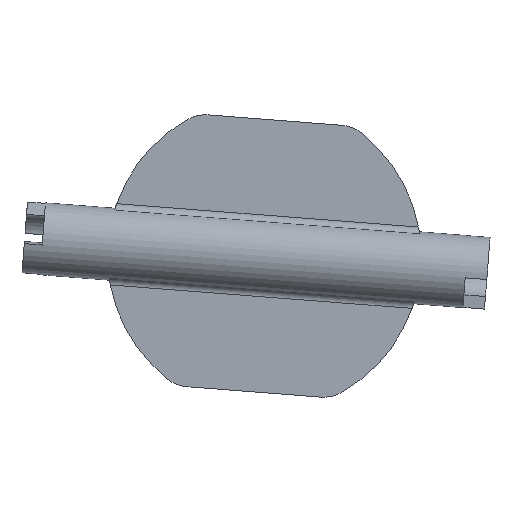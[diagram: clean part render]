
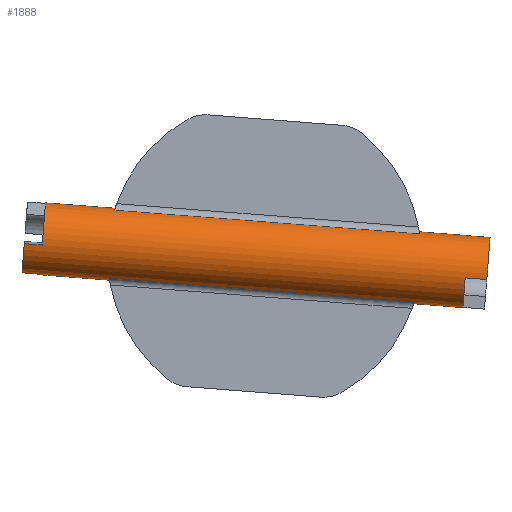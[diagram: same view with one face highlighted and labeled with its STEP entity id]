
A CAD part, front view. The second image highlights one B-rep face of the part: STEP entity #1888.
In plain terms, the highlighted cylindrical face has radius 5 mm (diameter 10 mm), a partial arc.
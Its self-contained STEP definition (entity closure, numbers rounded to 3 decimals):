
#66=CARTESIAN_POINT('',(386.935,-1.667,152.984));
#67=CARTESIAN_POINT('',(386.916,-1.487,152.922));
#68=CARTESIAN_POINT('',(386.883,-1.124,152.819));
#69=CARTESIAN_POINT('',(386.854,-0.564,152.725));
#70=CARTESIAN_POINT('',(386.847,-0.189,152.704));
#71=CARTESIAN_POINT('',(386.847,0.,152.704));
#101=CARTESIAN_POINT('',(387.62,0.,162.675));
#102=CARTESIAN_POINT('',(387.62,-0.189,162.675));
#103=CARTESIAN_POINT('',(387.624,-0.564,162.653));
#104=CARTESIAN_POINT('',(387.638,-1.124,162.556));
#105=CARTESIAN_POINT('',(387.654,-1.487,162.449));
#106=CARTESIAN_POINT('',(387.663,-1.667,162.384));
#141=CARTESIAN_POINT('',(344.68,0.,
155.974));
#142=CARTESIAN_POINT('',(344.68,-0.189,155.974));
#143=CARTESIAN_POINT('',(344.676,-0.564,155.996));
#144=CARTESIAN_POINT('',(344.662,-1.124,156.093));
#145=CARTESIAN_POINT('',(344.646,-1.487,156.2));
#146=CARTESIAN_POINT('',(344.637,-1.667,156.264));
#190=CARTESIAN_POINT('',(345.365,-1.667,165.664));
#191=CARTESIAN_POINT('',(345.384,-1.487,165.726));
#192=CARTESIAN_POINT('',(345.417,-1.124,165.83));
#193=CARTESIAN_POINT('',(345.446,-0.564,165.923));
#194=CARTESIAN_POINT('',(345.453,-0.189,165.944));
#195=CARTESIAN_POINT('',(345.453,0.,
165.944));
#197=DIRECTION('',(-0.997,0.,0.077));
#198=VECTOR('',#197,42.425);
#199=CARTESIAN_POINT('',(387.663,-1.667,162.384));
#200=LINE('',#199,#198);
#201=DIRECTION('',(0.997,0.,-0.077));
#202=VECTOR('',#201,6.846);
#203=CARTESIAN_POINT('',(387.62,0.,162.675));
#204=LINE('',#203,#202);
#205=CARTESIAN_POINT('',(394.059,0.,157.16));
#206=DIRECTION('',(0.997,0.,-0.077));
#207=DIRECTION('',(0.077,0.,0.997));
#208=AXIS2_PLACEMENT_3D('',#205,#206,#207);
#210=DIRECTION('',(-0.997,0.,0.077));
#211=VECTOR('',#210,3.);
#212=CARTESIAN_POINT('',(397.435,-0.436,161.894));
#213=LINE('',#212,#211);
#214=CARTESIAN_POINT('',(394.059,0.,157.16));
#215=DIRECTION('',(0.997,0.,-0.077));
#216=DIRECTION('',(-0.013,-0.985,-0.173));
#217=AXIS2_PLACEMENT_3D('',#214,#215,#216);
#219=DIRECTION('',(0.997,0.,-0.077));
#220=VECTOR('',#219,42.425);
#221=CARTESIAN_POINT('',(344.637,-1.667,156.264));
#222=LINE('',#221,#220);
#223=DIRECTION('',(-0.997,0.,0.077));
#224=VECTOR('',#223,2.5);
#225=CARTESIAN_POINT('',(335.027,-0.868,156.799));
#226=LINE('',#225,#224);
#227=DIRECTION('',(0.997,0.,-0.077));
#228=VECTOR('',#227,9.688);
#229=CARTESIAN_POINT('',(335.794,0.,166.693));
#230=LINE('',#229,#228);
#235=DIRECTION('',(0.997,0.,-0.077));
#236=VECTOR('',#235,6.846);
#237=CARTESIAN_POINT('',(386.847,0.,
152.704));
#238=LINE('',#237,#236);
#261=DIRECTION('',(0.997,0.,-0.077));
#262=VECTOR('',#261,9.688);
#263=CARTESIAN_POINT('',(335.021,0.,156.723));
#264=LINE('',#263,#262);
#1199=CARTESIAN_POINT('',(335.407,0.,161.708));
#1200=DIRECTION('',(0.997,0.,-0.077));
#1201=DIRECTION('',(0.077,0.,0.997));
#1202=AXIS2_PLACEMENT_3D('',#1199,#1200,#1201);
#1227=CARTESIAN_POINT('',(335.407,0.,161.708));
#1228=DIRECTION('',(0.997,0.,-0.077));
#1229=DIRECTION('',(-0.076,-0.174,-0.982));
#1230=AXIS2_PLACEMENT_3D('',#1227,#1228,#1229);
#1275=DIRECTION('',(-0.997,0.,0.077));
#1276=VECTOR('',#1275,2.5);
#1277=CARTESIAN_POINT('',(335.34,-4.924,160.842));
#1278=LINE('',#1277,#1276);
#1288=CARTESIAN_POINT('',(332.915,0.,161.901));
#1289=DIRECTION('',(-0.997,0.,0.077));
#1290=DIRECTION('',(-0.076,-0.174,-0.982));
#1291=AXIS2_PLACEMENT_3D('',#1288,#1289,#1290);
#1305=DIRECTION('',(-0.997,0.,0.077));
#1306=VECTOR('',#1305,3.);
#1307=CARTESIAN_POINT('',(396.983,-4.924,156.063));
#1308=LINE('',#1307,#1306);
#1318=CARTESIAN_POINT('',(397.05,0.,156.928));
#1319=DIRECTION('',(0.997,0.,-0.077));
#1320=DIRECTION('',(0.077,-0.087,0.993));
#1321=AXIS2_PLACEMENT_3D('',#1318,#1319,#1320);
#1369=CARTESIAN_POINT('',(335.021,0.,156.723));
#1370=CARTESIAN_POINT('',(344.68,0.,
155.974));
#1371=VERTEX_POINT('',#1369);
#1372=VERTEX_POINT('',#1370);
#1373=CARTESIAN_POINT('',(335.794,0.,166.693));
#1374=CARTESIAN_POINT('',(345.453,0.,
165.944));
#1375=VERTEX_POINT('',#1373);
#1376=VERTEX_POINT('',#1374);
#1385=CARTESIAN_POINT('',(397.435,-0.436,
161.894));
#1386=CARTESIAN_POINT('',(396.983,-4.924,156.063));
#1387=VERTEX_POINT('',#1385);
#1388=VERTEX_POINT('',#1386);
#1389=CARTESIAN_POINT('',(394.444,-0.436,
162.126));
#1390=VERTEX_POINT('',#1389);
#1391=CARTESIAN_POINT('',(393.992,-4.924,156.295));
#1392=VERTEX_POINT('',#1391);
#1401=CARTESIAN_POINT('',(332.534,-0.868,
156.992));
#1402=CARTESIAN_POINT('',(332.848,-4.924,161.036));
#1403=VERTEX_POINT('',#1401);
#1404=VERTEX_POINT('',#1402);
#1405=CARTESIAN_POINT('',(335.027,-0.868,
156.799));
#1406=VERTEX_POINT('',#1405);
#1407=CARTESIAN_POINT('',(335.34,-4.924,160.842));
#1408=VERTEX_POINT('',#1407);
#1441=CARTESIAN_POINT('',(386.847,0.,
152.704));
#1442=CARTESIAN_POINT('',(393.672,0.,152.175));
#1443=VERTEX_POINT('',#1441);
#1444=VERTEX_POINT('',#1442);
#1445=CARTESIAN_POINT('',(387.62,0.,
162.675));
#1446=CARTESIAN_POINT('',(394.446,0.,162.145));
#1447=VERTEX_POINT('',#1445);
#1448=VERTEX_POINT('',#1446);
#1469=CARTESIAN_POINT('',(387.663,-1.667,162.384));
#1470=CARTESIAN_POINT('',(345.365,-1.667,165.664));
#1471=VERTEX_POINT('',#1469);
#1472=VERTEX_POINT('',#1470);
#1477=CARTESIAN_POINT('',(344.637,-1.667,156.264));
#1478=CARTESIAN_POINT('',(386.935,-1.667,152.984));
#1479=VERTEX_POINT('',#1477);
#1480=VERTEX_POINT('',#1478);
#1847=CARTESIAN_POINT('',(335.407,0.,161.708));
#1848=DIRECTION('',(0.997,0.,-0.077));
#1849=DIRECTION('',(-0.077,0.,-0.997));
#1850=AXIS2_PLACEMENT_3D('',#1847,#1848,#1849);
#1851=CYLINDRICAL_SURFACE('',#1850,5.);
#1852=ORIENTED_EDGE('',*,*,#1745,.F.);
#1853=ORIENTED_EDGE('',*,*,#1784,.F.);
#1855=ORIENTED_EDGE('',*,*,#1854,.T.);
#1857=ORIENTED_EDGE('',*,*,#1856,.T.);
#1859=ORIENTED_EDGE('',*,*,#1858,.F.);
#1861=ORIENTED_EDGE('',*,*,#1860,.T.);
#1863=ORIENTED_EDGE('',*,*,#1862,.T.);
#1865=ORIENTED_EDGE('',*,*,#1864,.T.);
#1867=ORIENTED_EDGE('',*,*,#1866,.F.);
#1868=ORIENTED_EDGE('',*,*,#1760,.F.);
#1869=ORIENTED_EDGE('',*,*,#1801,.F.);
#1870=ORIENTED_EDGE('',*,*,#1812,.F.);
#1872=ORIENTED_EDGE('',*,*,#1871,.F.);
#1874=ORIENTED_EDGE('',*,*,#1873,.F.);
#1876=ORIENTED_EDGE('',*,*,#1875,.T.);
#1878=ORIENTED_EDGE('',*,*,#1877,.T.);
#1880=ORIENTED_EDGE('',*,*,#1879,.F.);
#1882=ORIENTED_EDGE('',*,*,#1881,.F.);
#1884=ORIENTED_EDGE('',*,*,#1883,.T.);
#1885=ORIENTED_EDGE('',*,*,#1842,.F.);
#1886=EDGE_LOOP('',(#1852,#1853,#1855,#1857,#1859,#1861,#1863,#1865,#1867,#1868,
#1869,#1870,#1872,#1874,#1876,#1878,#1880,#1882,#1884,#1885));
#1887=FACE_OUTER_BOUND('',#1886,.F.);
#1888=ADVANCED_FACE('',(#1887),#1851,.T.);
#72=B_SPLINE_CURVE_WITH_KNOTS('',3,(#66,#67,#68,#69,#70,#71),.UNSPECIFIED.,.F.,
.F.,(4,1,1,4),(0.,0.333,0.667,1.),.UNSPECIFIED.);
#107=B_SPLINE_CURVE_WITH_KNOTS('',3,(#101,#102,#103,#104,#105,#106),
.UNSPECIFIED.,.F.,.F.,(4,1,1,4),(0.,0.333,0.667,1.),
.UNSPECIFIED.);
#147=B_SPLINE_CURVE_WITH_KNOTS('',3,(#141,#142,#143,#144,#145,#146),
.UNSPECIFIED.,.F.,.F.,(4,1,1,4),(0.,0.333,0.667,1.),
.UNSPECIFIED.);
#196=B_SPLINE_CURVE_WITH_KNOTS('',3,(#190,#191,#192,#193,#194,#195),
.UNSPECIFIED.,.F.,.F.,(4,1,1,4),(0.,0.333,0.667,1.),
.UNSPECIFIED.);
#209=CIRCLE('',#208,5.);
#218=CIRCLE('',#217,5.);
#1203=CIRCLE('',#1202,5.);
#1231=CIRCLE('',#1230,5.);
#1292=CIRCLE('',#1291,5.);
#1322=CIRCLE('',#1321,5.);
#1745=EDGE_CURVE('',#1471,#1472,#200,.T.);
#1760=EDGE_CURVE('',#1480,#1443,#72,.T.);
#1784=EDGE_CURVE('',#1447,#1471,#107,.T.);
#1801=EDGE_CURVE('',#1479,#1480,#222,.T.);
#1812=EDGE_CURVE('',#1372,#1479,#147,.T.);
#1842=EDGE_CURVE('',#1472,#1376,#196,.T.);
#1854=EDGE_CURVE('',#1447,#1448,#204,.T.);
#1856=EDGE_CURVE('',#1448,#1390,#209,.T.);
#1858=EDGE_CURVE('',#1387,#1390,#213,.T.);
#1860=EDGE_CURVE('',#1387,#1388,#1322,.T.);
#1862=EDGE_CURVE('',#1388,#1392,#1308,.T.);
#1864=EDGE_CURVE('',#1392,#1444,#218,.T.);
#1866=EDGE_CURVE('',#1443,#1444,#238,.T.);
#1871=EDGE_CURVE('',#1371,#1372,#264,.T.);
#1873=EDGE_CURVE('',#1406,#1371,#1231,.T.);
#1875=EDGE_CURVE('',#1406,#1403,#226,.T.);
#1877=EDGE_CURVE('',#1403,#1404,#1292,.T.);
#1879=EDGE_CURVE('',#1408,#1404,#1278,.T.);
#1881=EDGE_CURVE('',#1375,#1408,#1203,.T.);
#1883=EDGE_CURVE('',#1375,#1376,#230,.T.);
